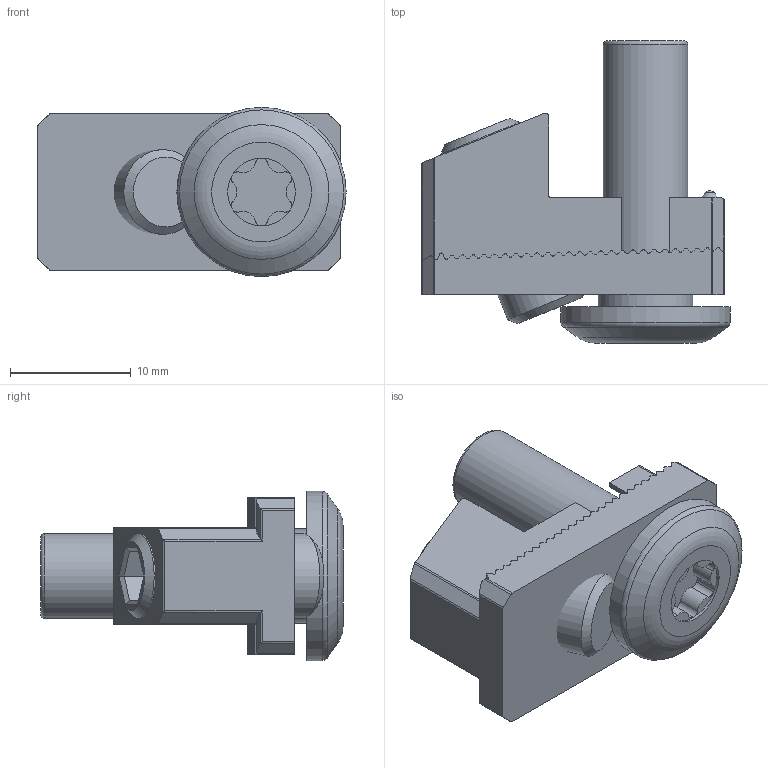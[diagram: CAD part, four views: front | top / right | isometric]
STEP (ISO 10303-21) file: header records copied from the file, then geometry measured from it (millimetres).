
FILE_DESCRIPTION(/* description */ ('STEP AP203'),/* implementation_level */ '2;1');
FILE_NAME(/* name */ '099J08S07',/* time_stamp */ '2026-05-11T14:01:03+02:00',/* author */ ('License CC BY-ND 4.0'),/* organization */ ('CADENAS'),/* preprocessor_version */ 'ST-DEVELOPER v20',/* originating_system */ 'PARTsolutions',/* authorisation */ ' ');
FILE_SCHEMA (('CONFIG_CONTROL_DESIGN'));
Length unit declared in the file: millimetre
Products named in the file (4): 099J08S07; 099J08S07-1; 099J08S07-2; 099J08S07-3
Assembly tree (3 placements, depth 2):
  099J08S07
    099J08S07-1
    099J08S07-2
    099J08S07-3
Bounding box: 25.5 x 25 x 14 mm (x, y, z)
Volume: 3385.6 mm3; surface area: 3013.6 mm2
Topology: 3 solids, 3 shells, 330 faces, 941 edges, 621 vertices
Faces by surface type: cylinder 159, plane 158, torus 7, cone 5, sphere 1
Full cylindrical faces by diameter (mm): 5.6 x1, 5.92 x1, 7 x2, 7.8 x1, 8.1 x1, 14 x1
Entity records: 10824 total; most frequent: CARTESIAN_POINT 1968, DIRECTION 1886, ORIENTED_EDGE 1840, EDGE_CURVE 920, AXIS2_PLACEMENT_3D 664, VERTEX_POINT 618, LINE 558, VECTOR 558
